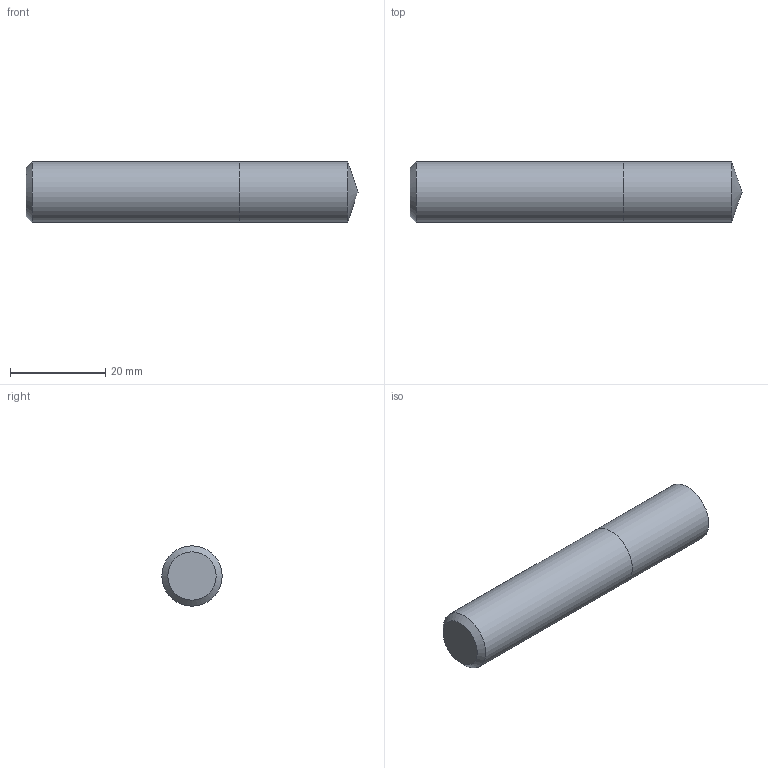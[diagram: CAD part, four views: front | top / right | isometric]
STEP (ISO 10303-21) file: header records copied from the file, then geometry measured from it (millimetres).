
FILE_DESCRIPTION (( 'STEP AP214' ), '1' );
FILE_NAME ('03-2224.STEP', '2022-02-07T07:04:52', ( 'USER' ), ( '' ), 'SwSTEP 2.0', 'SolidWorks 2018', '' );
FILE_SCHEMA (( 'AUTOMOTIVE_DESIGN' ));
Length unit declared in the file: millimetre
Products named in the file (1): 03-2224
Bounding box: 69.85 x 12.7 x 12.7 mm (x, y, z)
Volume: 8633.7 mm3; surface area: 3181.9 mm2
Topology: 2 solids, 2 shells, 7 faces, 11 edges, 7 vertices
Faces by surface type: plane 3, cylinder 2, cone 2
Full cylindrical faces by diameter (mm): 12.7 x2
Entity records: 189 total; most frequent: DIRECTION 26, CARTESIAN_POINT 18, AXIS2_PLACEMENT_3D 13, EDGE_LOOP 10, ORIENTED_EDGE 10, FACE_OUTER_BOUND 9, ADVANCED_FACE 7, UNCERTAINTY_MEASURE_WITH_UNIT 6
